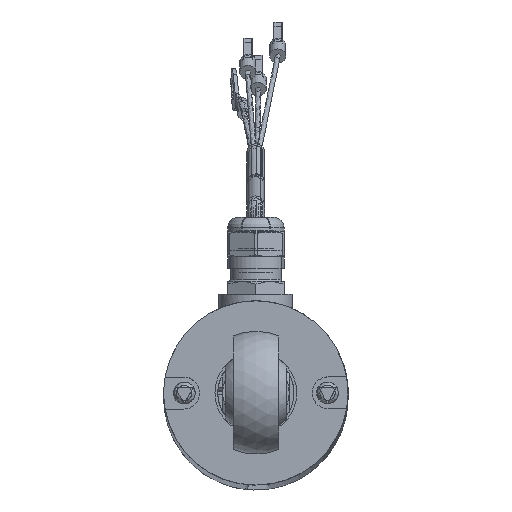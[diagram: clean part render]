
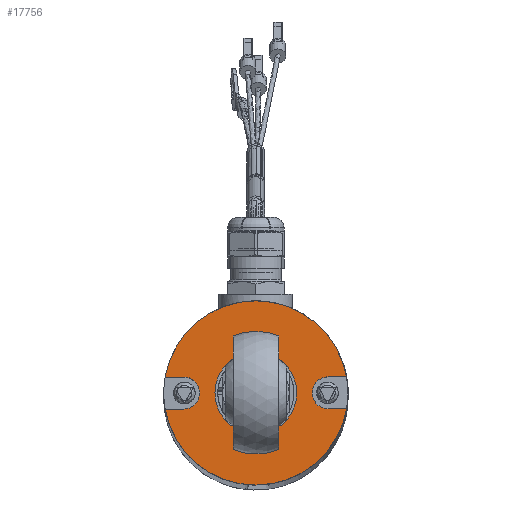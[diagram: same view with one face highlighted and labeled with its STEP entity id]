
A CAD part, top view. The second image highlights one B-rep face of the part: STEP entity #17756.
In plain terms, the highlighted planar face has unit normal (0, 0, 1).
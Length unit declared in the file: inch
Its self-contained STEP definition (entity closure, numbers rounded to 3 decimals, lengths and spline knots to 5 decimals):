
#1080=LINE('',#25987,#2227);
#1083=LINE('',#25993,#2230);
#1088=LINE('',#26011,#2235);
#1090=LINE('',#26014,#2237);
#2227=VECTOR('',#21112,0.3937);
#2230=VECTOR('',#21117,0.3937);
#2235=VECTOR('',#21138,0.3937);
#2237=VECTOR('',#21142,0.3937);
#3586=FACE_BOUND('',#4839,.T.);
#3770=FACE_OUTER_BOUND('',#4838,.T.);
#4838=EDGE_LOOP('',(#11323,#11324,#11325,#11326,#11327,#11328,#11329,#11330,
#11331));
#4839=EDGE_LOOP('',(#11332));
#5955=CIRCLE('',#19091,0.70866);
#5966=CIRCLE('',#19110,0.70866);
#5968=CIRCLE('',#19112,0.70866);
#5974=CIRCLE('',#19123,0.12303);
#5976=CIRCLE('',#19127,0.12303);
#5978=CIRCLE('',#19133,0.15945);
#6785=VERTEX_POINT('',#25893);
#6786=VERTEX_POINT('',#25895);
#6801=VERTEX_POINT('',#25960);
#6804=VERTEX_POINT('',#25966);
#6805=VERTEX_POINT('',#25968);
#6811=VERTEX_POINT('',#25986);
#6813=VERTEX_POINT('',#25992);
#6815=VERTEX_POINT('',#26002);
#6816=VERTEX_POINT('',#26003);
#6819=VERTEX_POINT('',#26018);
#8502=EDGE_CURVE('',#6786,#6785,#5955,.T.);
#8526=EDGE_CURVE('',#6801,#6786,#5966,.T.);
#8530=EDGE_CURVE('',#6805,#6804,#5968,.T.);
#8539=EDGE_CURVE('',#6811,#6805,#1080,.T.);
#8542=EDGE_CURVE('',#6785,#6813,#1083,.T.);
#8545=EDGE_CURVE('',#6813,#6811,#5974,.T.);
#8547=EDGE_CURVE('',#6815,#6816,#5976,.T.);
#8551=EDGE_CURVE('',#6816,#6801,#1088,.T.);
#8553=EDGE_CURVE('',#6804,#6815,#1090,.T.);
#8555=EDGE_CURVE('',#6819,#6819,#5978,.T.);
#11323=ORIENTED_EDGE('',*,*,#8542,.T.);
#11324=ORIENTED_EDGE('',*,*,#8545,.T.);
#11325=ORIENTED_EDGE('',*,*,#8539,.T.);
#11326=ORIENTED_EDGE('',*,*,#8530,.T.);
#11327=ORIENTED_EDGE('',*,*,#8553,.T.);
#11328=ORIENTED_EDGE('',*,*,#8547,.T.);
#11329=ORIENTED_EDGE('',*,*,#8551,.T.);
#11330=ORIENTED_EDGE('',*,*,#8526,.T.);
#11331=ORIENTED_EDGE('',*,*,#8502,.T.);
#11332=ORIENTED_EDGE('',*,*,#8555,.T.);
#16170=PLANE('',#19132);
#17756=ADVANCED_FACE('',(#3770,#3586),#16170,.T.);
#19091=AXIS2_PLACEMENT_3D('',#25896,#21036,#21037);
#19110=AXIS2_PLACEMENT_3D('',#25961,#21085,#21086);
#19112=AXIS2_PLACEMENT_3D('',#25969,#21091,#21092);
#19123=AXIS2_PLACEMENT_3D('',#25998,#21122,#21123);
#19127=AXIS2_PLACEMENT_3D('',#26004,#21130,#21131);
#19132=AXIS2_PLACEMENT_3D('',#26017,#21146,#21147);
#19133=AXIS2_PLACEMENT_3D('',#26019,#21148,#21149);
#21036=DIRECTION('center_axis',(0.,0.,1.));
#21037=DIRECTION('ref_axis',(1.,0.,0.));
#21085=DIRECTION('center_axis',(0.,0.,1.));
#21086=DIRECTION('ref_axis',(1.,0.,0.));
#21091=DIRECTION('center_axis',(0.,0.,1.));
#21092=DIRECTION('ref_axis',(1.,0.,0.));
#21112=DIRECTION('',(-1.,-0.001,0.));
#21117=DIRECTION('',(1.,0.001,0.));
#21122=DIRECTION('center_axis',(0.,0.,-1.));
#21123=DIRECTION('ref_axis',(-0.001,1.,0.));
#21130=DIRECTION('center_axis',(0.,0.,-1.));
#21131=DIRECTION('ref_axis',(0.001,-1.,0.));
#21138=DIRECTION('',(1.,0.001,0.));
#21142=DIRECTION('',(-1.,-0.001,0.));
#21146=DIRECTION('center_axis',(0.,0.,1.));
#21147=DIRECTION('ref_axis',(1.,0.,0.));
#21148=DIRECTION('center_axis',(0.,0.,-1.));
#21149=DIRECTION('ref_axis',(1.,0.,0.));
#25893=CARTESIAN_POINT('',(-0.69806,0.12214,0.59055));
#25895=CARTESIAN_POINT('',(0.,0.70866,0.59055));
#25896=CARTESIAN_POINT('Origin',(0.,0.,0.59055));
#25960=CARTESIAN_POINT('',(0.69774,0.12392,0.59055));
#25961=CARTESIAN_POINT('Origin',(0.,0.,0.59055));
#25966=CARTESIAN_POINT('',(0.69806,-0.12214,0.59055));
#25968=CARTESIAN_POINT('',(-0.69774,-0.12392,0.59055));
#25969=CARTESIAN_POINT('Origin',(0.,0.,0.59055));
#25986=CARTESIAN_POINT('',(-0.55595,-0.12374,0.59055));
#25987=CARTESIAN_POINT('',(-0.34879,-0.12348,0.59055));
#25992=CARTESIAN_POINT('',(-0.55626,0.12232,0.59055));
#25993=CARTESIAN_POINT('',(-0.27821,0.12268,0.59055));
#25998=CARTESIAN_POINT('Origin',(-0.5561,-0.00071,
0.59055));
#26002=CARTESIAN_POINT('',(0.55626,-0.12232,0.59055));
#26003=CARTESIAN_POINT('',(0.55595,0.12374,0.59055));
#26004=CARTESIAN_POINT('Origin',(0.5561,0.00071,
0.59055));
#26011=CARTESIAN_POINT('',(0.34879,0.12348,0.59055));
#26014=CARTESIAN_POINT('',(0.27821,-0.12268,0.59055));
#26017=CARTESIAN_POINT('Origin',(0.,0.,0.59055));
#26018=CARTESIAN_POINT('',(-0.15945,0.,0.59055));
#26019=CARTESIAN_POINT('Origin',(0.,0.,0.59055));
